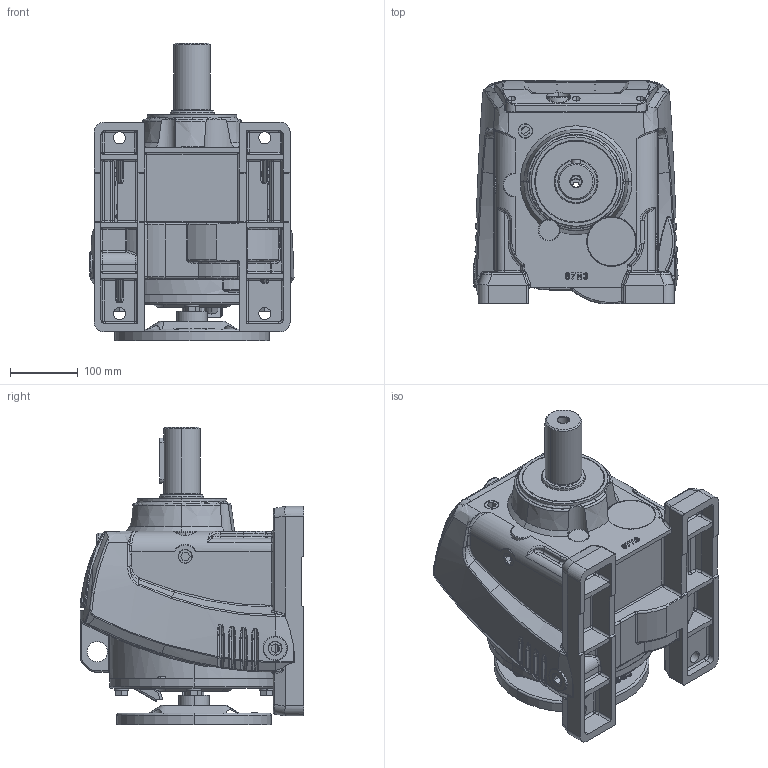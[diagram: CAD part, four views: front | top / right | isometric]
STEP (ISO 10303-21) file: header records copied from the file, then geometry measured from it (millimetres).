
FILE_DESCRIPTION (( 'STEP AP203' ), '1' );
FILE_NAME ('WINL87-182-4TC.STEP', '2013-09-26T09:51:52', ( 'User' ), ( 'Chenta' ), 'SwSTEP 2.0', 'SolidWorks 2011', '' );
FILE_SCHEMA (( 'CONFIG_CONTROL_DESIGN' ));
Products named in the file (1): WINL87-182-4TC
Bounding box: 301.8 x 330 x 440 mm (x, y, z)
Surface area: 796445.9 mm2 (no closed solid volume)
Topology: 0 solids, 36 shells, 1505 faces, 4266 edges, 2688 vertices
Faces by surface type: bspline 546, cylinder 373, plane 361, sphere 78, cone 74, torus 73
Entity records: 73853 total; most frequent: CARTESIAN_POINT 39694, ORIENTED_EDGE 7525, DIRECTION 5986, EDGE_CURVE 4213, VERTEX_POINT 2687, AXIS2_PLACEMENT_3D 2300, EDGE_LOOP 1622, ADVANCED_FACE 1505
